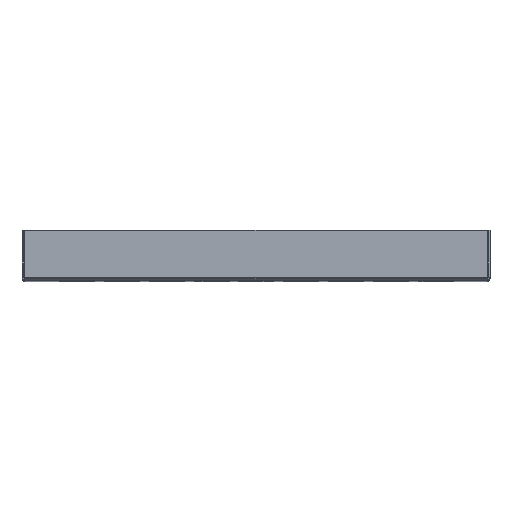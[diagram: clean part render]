
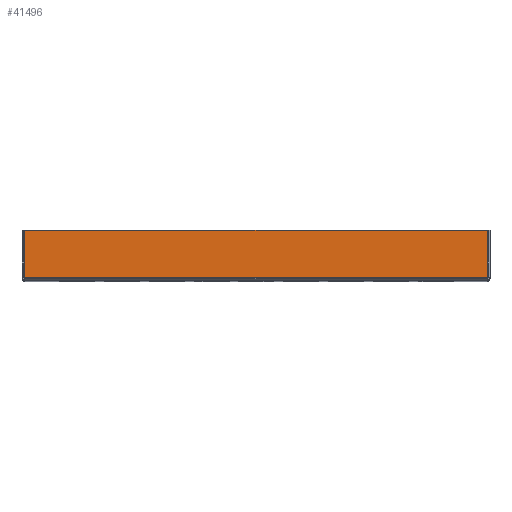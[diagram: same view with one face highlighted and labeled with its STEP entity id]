
A CAD part, top view. The second image highlights one B-rep face of the part: STEP entity #41496.
In plain terms, the highlighted planar face has unit normal (0, 0, 1).
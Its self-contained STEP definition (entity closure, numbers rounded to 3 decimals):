
#4659 = VECTOR ( 'NONE', #73354, 1000. ) ;
#5205 = CARTESIAN_POINT ( 'NONE',  ( 232., 50., 375. ) ) ;
#7127 = EDGE_LOOP ( 'NONE', ( #68784, #20885, #51976, #69687 ) ) ;
#11934 = VERTEX_POINT ( 'NONE', #63419 ) ;
#15010 = VERTEX_POINT ( 'NONE', #57026 ) ;
#17569 = VECTOR ( 'NONE', #69258, 1000. ) ;
#20794 = LINE ( 'NONE', #25558, #4659 ) ;
#20885 = ORIENTED_EDGE ( 'NONE', *, *, #71867, .T. ) ;
#25270 = FACE_OUTER_BOUND ( 'NONE', #7127, .T. ) ;
#25558 = CARTESIAN_POINT ( 'NONE',  ( 232., 3., 375. ) ) ;
#25603 = PLANE ( 'NONE',  #67045 ) ;
#26630 = CARTESIAN_POINT ( 'NONE',  ( -232., 50., 375. ) ) ;
#27675 = CARTESIAN_POINT ( 'NONE',  ( 232., 2., 375. ) ) ;
#29406 = VERTEX_POINT ( 'NONE', #38274 ) ;
#29739 = VERTEX_POINT ( 'NONE', #5205 ) ;
#31692 = DIRECTION ( 'NONE',  ( 0., 0., 1. ) ) ;
#33696 = LINE ( 'NONE', #27675, #17569 ) ;
#38274 = CARTESIAN_POINT ( 'NONE',  ( 232., 3., 375. ) ) ;
#39775 = CARTESIAN_POINT ( 'NONE',  ( 232., 50., 375. ) ) ;
#41496 = ADVANCED_FACE ( 'NONE', ( #25270 ), #25603, .T. ) ;
#51976 = ORIENTED_EDGE ( 'NONE', *, *, #75298, .F. ) ;
#56970 = LINE ( 'NONE', #26630, #70783 ) ;
#57025 = LINE ( 'NONE', #39775, #72694 ) ;
#57026 = CARTESIAN_POINT ( 'NONE',  ( -232., 3., 375. ) ) ;
#57398 = DIRECTION ( 'NONE',  ( 1., 0., 0. ) ) ;
#61333 = CARTESIAN_POINT ( 'NONE',  ( 232., 2., 375. ) ) ;
#63419 = CARTESIAN_POINT ( 'NONE',  ( -232., 50., 375. ) ) ;
#67045 = AXIS2_PLACEMENT_3D ( 'NONE', #61333, #31692, #73139 ) ;
#68784 = ORIENTED_EDGE ( 'NONE', *, *, #75192, .F. ) ;
#69258 = DIRECTION ( 'NONE',  ( 0., -1., 0. ) ) ;
#69687 = ORIENTED_EDGE ( 'NONE', *, *, #74037, .F. ) ;
#70783 = VECTOR ( 'NONE', #74160, 1000. ) ;
#71867 = EDGE_CURVE ( 'NONE', #15010, #29406, #20794, .T. ) ;
#72694 = VECTOR ( 'NONE', #57398, 1000. ) ;
#73139 = DIRECTION ( 'NONE',  ( 0., -1., 0. ) ) ;
#73354 = DIRECTION ( 'NONE',  ( 1., 0., 0. ) ) ;
#74037 = EDGE_CURVE ( 'NONE', #11934, #29739, #57025, .T. ) ;
#74160 = DIRECTION ( 'NONE',  ( 0., 1., 0. ) ) ;
#75192 = EDGE_CURVE ( 'NONE', #15010, #11934, #56970, .T. ) ;
#75298 = EDGE_CURVE ( 'NONE', #29739, #29406, #33696, .T. ) ;
